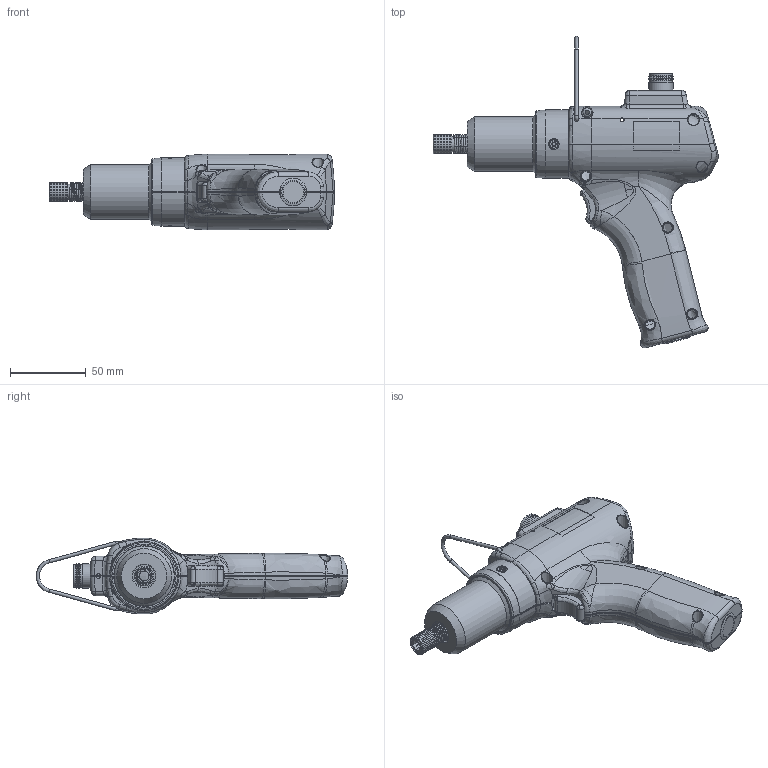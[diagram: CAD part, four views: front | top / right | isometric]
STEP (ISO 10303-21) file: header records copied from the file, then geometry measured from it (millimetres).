
FILE_DESCRIPTION (( 'STEP AP214' ), '1' );
FILE_NAME ('KDS-PL15P-U-ESD.STEP', '2024-01-30T14:21:02', ( '' ), ( '' ), 'SwSTEP 2.0', 'SolidWorks 2022', '' );
FILE_SCHEMA (( 'AUTOMOTIVE_DESIGN' ));
Length unit declared in the file: millimetre
Products named in the file (1): KDS-PL15P-U-ESD
Bounding box: 187.85 x 205.25 x 50 mm (x, y, z)
Surface area: 63561.3 mm2 (no closed solid volume)
Topology: 0 solids, 24 shells, 656 faces, 2157 edges, 1470 vertices
Faces by surface type: bspline 304, cylinder 164, plane 135, torus 29, cone 24
Full cylindrical faces by diameter (mm): 1 x10, 2.2 x1, 2.5 x4, 5.5 x2, 6.5 x1, 6.972 x2, 9 x1, 10 x2, 11.3 x1, 11.8 x1, 12 x1, 13 x6, 14.85 x2, 15 x1, 15.5 x1, 16 x1, 36 x1, 39.6 x1
Entity records: 84885 total; most frequent: CARTESIAN_POINT 62723, ORIENTED_EDGE 3401, DIRECTION 2074, EDGE_CURVE 2014, VERTEX_POINT 1427, B_SPLINE_CURVE_WITH_KNOTS 920, EDGE_LOOP 788, AXIS2_PLACEMENT_3D 759
